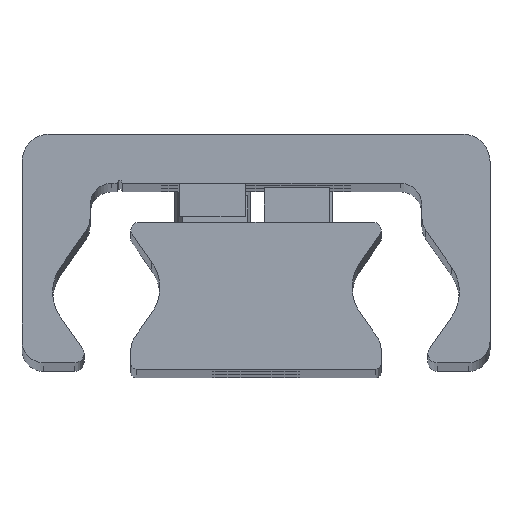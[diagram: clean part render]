
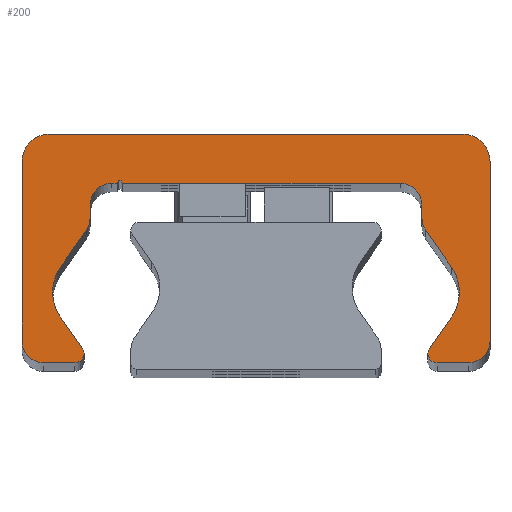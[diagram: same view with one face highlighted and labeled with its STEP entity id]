
A CAD part, top view. The second image highlights one B-rep face of the part: STEP entity #200.
In plain terms, the highlighted planar face has unit normal (0, 0, 1).
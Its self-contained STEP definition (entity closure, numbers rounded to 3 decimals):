
#200=ADVANCED_FACE('',(#502),#503,.T.);
#502=FACE_OUTER_BOUND('',#805,.T.);
#503=PLANE('',#806);
#805=EDGE_LOOP('',(#1850,#1851,#1852,#1853,#1854,#1855,#1856,#1857,#1858,#1859,#1860,#1861,#1862,#1863,#1864,#1865,#1866,#1867,#1868,#1869,#1870,#1871,#1872,#1873,#1874,#1875,#1876,#1877,#1878,#1879));
#806=AXIS2_PLACEMENT_3D('',#1880,#1881,#1882);
#1850=ORIENTED_EDGE('',*,*,#2099,.F.);
#1851=ORIENTED_EDGE('',*,*,#2262,.F.);
#1852=ORIENTED_EDGE('',*,*,#2085,.F.);
#1853=ORIENTED_EDGE('',*,*,#2261,.F.);
#1854=ORIENTED_EDGE('',*,*,#2257,.F.);
#1855=ORIENTED_EDGE('',*,*,#2254,.F.);
#1856=ORIENTED_EDGE('',*,*,#2251,.F.);
#1857=ORIENTED_EDGE('',*,*,#2248,.F.);
#1858=ORIENTED_EDGE('',*,*,#2245,.F.);
#1859=ORIENTED_EDGE('',*,*,#2242,.F.);
#1860=ORIENTED_EDGE('',*,*,#2239,.F.);
#1861=ORIENTED_EDGE('',*,*,#2236,.F.);
#1862=ORIENTED_EDGE('',*,*,#2233,.F.);
#1863=ORIENTED_EDGE('',*,*,#2230,.F.);
#1864=ORIENTED_EDGE('',*,*,#2091,.F.);
#1865=ORIENTED_EDGE('',*,*,#2228,.F.);
#1866=ORIENTED_EDGE('',*,*,#2093,.F.);
#1867=ORIENTED_EDGE('',*,*,#2227,.F.);
#1868=ORIENTED_EDGE('',*,*,#2223,.F.);
#1869=ORIENTED_EDGE('',*,*,#2220,.F.);
#1870=ORIENTED_EDGE('',*,*,#2217,.F.);
#1871=ORIENTED_EDGE('',*,*,#2214,.F.);
#1872=ORIENTED_EDGE('',*,*,#2211,.F.);
#1873=ORIENTED_EDGE('',*,*,#2208,.F.);
#1874=ORIENTED_EDGE('',*,*,#2205,.F.);
#1875=ORIENTED_EDGE('',*,*,#2202,.F.);
#1876=ORIENTED_EDGE('',*,*,#2199,.F.);
#1877=ORIENTED_EDGE('',*,*,#2196,.F.);
#1878=ORIENTED_EDGE('',*,*,#2193,.F.);
#1879=ORIENTED_EDGE('',*,*,#2190,.F.);
#1880=CARTESIAN_POINT('',(-0.023,14.187,207.0));
#1881=DIRECTION('',(0.0,0.0,1.0));
#1882=DIRECTION('',(1.0,0.0,0.0));
#2085=EDGE_CURVE('',#2536,#2539,#2540,.T.);
#2091=EDGE_CURVE('',#2549,#2545,#2551,.T.);
#2093=EDGE_CURVE('',#2552,#2555,#2556,.T.);
#2099=EDGE_CURVE('',#2565,#2561,#2567,.T.);
#2190=EDGE_CURVE('',#2561,#2714,#2715,.T.);
#2193=EDGE_CURVE('',#2714,#2719,#2720,.T.);
#2196=EDGE_CURVE('',#2719,#2724,#2725,.T.);
#2199=EDGE_CURVE('',#2724,#2729,#2730,.T.);
#2202=EDGE_CURVE('',#2729,#2734,#2735,.T.);
#2205=EDGE_CURVE('',#2734,#2739,#2740,.T.);
#2208=EDGE_CURVE('',#2739,#2744,#2745,.T.);
#2211=EDGE_CURVE('',#2744,#2749,#2750,.T.);
#2214=EDGE_CURVE('',#2749,#2754,#2755,.T.);
#2217=EDGE_CURVE('',#2754,#2759,#2760,.T.);
#2220=EDGE_CURVE('',#2759,#2764,#2765,.T.);
#2223=EDGE_CURVE('',#2764,#2769,#2770,.T.);
#2227=EDGE_CURVE('',#2769,#2552,#2775,.T.);
#2228=EDGE_CURVE('',#2555,#2549,#2776,.T.);
#2230=EDGE_CURVE('',#2545,#2778,#2779,.T.);
#2233=EDGE_CURVE('',#2778,#2783,#2784,.T.);
#2236=EDGE_CURVE('',#2783,#2788,#2789,.T.);
#2239=EDGE_CURVE('',#2788,#2793,#2794,.T.);
#2242=EDGE_CURVE('',#2793,#2798,#2799,.T.);
#2245=EDGE_CURVE('',#2798,#2803,#2804,.T.);
#2248=EDGE_CURVE('',#2803,#2808,#2809,.T.);
#2251=EDGE_CURVE('',#2808,#2813,#2814,.T.);
#2254=EDGE_CURVE('',#2813,#2818,#2819,.T.);
#2257=EDGE_CURVE('',#2818,#2823,#2824,.T.);
#2261=EDGE_CURVE('',#2823,#2536,#2829,.T.);
#2262=EDGE_CURVE('',#2539,#2565,#2830,.T.);
#2536=VERTEX_POINT('',#3200);
#2539=VERTEX_POINT('',#3204);
#2540=CIRCLE('',#3205,0.85);
#2545=VERTEX_POINT('',#3211);
#2549=VERTEX_POINT('',#3216);
#2551=CIRCLE('',#3219,0.85);
#2552=VERTEX_POINT('',#3220);
#2555=VERTEX_POINT('',#3224);
#2556=CIRCLE('',#3225,4.);
#2561=VERTEX_POINT('',#3231);
#2565=VERTEX_POINT('',#3236);
#2567=CIRCLE('',#3239,4.);
#2714=VERTEX_POINT('',#3436);
#2715=CIRCLE('',#3437,4.);
#2719=VERTEX_POINT('',#3442);
#2720=LINE('',#3443,#3444);
#2724=VERTEX_POINT('',#3450);
#2725=CIRCLE('',#3451,2.);
#2729=VERTEX_POINT('',#3456);
#2730=LINE('',#3457,#3458);
#2734=VERTEX_POINT('',#3464);
#2735=CIRCLE('',#3465,2.0);
#2739=VERTEX_POINT('',#3470);
#2740=LINE('',#3471,#3472);
#2744=VERTEX_POINT('',#3478);
#2745=CIRCLE('',#3479,0.25);
#2749=VERTEX_POINT('',#3484);
#2750=LINE('',#3485,#3486);
#2754=VERTEX_POINT('',#3492);
#2755=CIRCLE('',#3493,2.0);
#2759=VERTEX_POINT('',#3498);
#2760=LINE('',#3499,#3500);
#2764=VERTEX_POINT('',#3506);
#2765=CIRCLE('',#3507,2.0);
#2769=VERTEX_POINT('',#3512);
#2770=LINE('',#3513,#3514);
#2775=CIRCLE('',#3521,4.);
#2776=LINE('',#3522,#3523);
#2778=VERTEX_POINT('',#3526);
#2779=CIRCLE('',#3527,0.85);
#2783=VERTEX_POINT('',#3532);
#2784=LINE('',#3533,#3534);
#2788=VERTEX_POINT('',#3540);
#2789=CIRCLE('',#3541,2.);
#2793=VERTEX_POINT('',#3546);
#2794=LINE('',#3547,#3548);
#2798=VERTEX_POINT('',#3554);
#2799=CIRCLE('',#3555,2.5);
#2803=VERTEX_POINT('',#3560);
#2804=LINE('',#3561,#3562);
#2808=VERTEX_POINT('',#3568);
#2809=CIRCLE('',#3569,2.5);
#2813=VERTEX_POINT('',#3574);
#2814=LINE('',#3575,#3576);
#2818=VERTEX_POINT('',#3582);
#2819=CIRCLE('',#3583,2.);
#2823=VERTEX_POINT('',#3588);
#2824=LINE('',#3589,#3590);
#2829=CIRCLE('',#3597,0.85);
#2830=LINE('',#3598,#3599);
#3200=CARTESIAN_POINT('',(15.8,1.859,207.0));
#3204=CARTESIAN_POINT('',(15.922,2.298,207.0));
#3205=AXIS2_PLACEMENT_3D('',#3915,#3916,#3917);
#3211=CARTESIAN_POINT('',(-15.8,1.859,207.0));
#3216=CARTESIAN_POINT('',(-15.922,2.298,207.0));
#3219=AXIS2_PLACEMENT_3D('',#3927,#3928,#3929);
#3220=CARTESIAN_POINT('',(-18.688,7.509,207.0));
#3224=CARTESIAN_POINT('',(-17.964,5.214,207.0));
#3225=AXIS2_PLACEMENT_3D('',#3931,#3932,#3933);
#3231=CARTESIAN_POINT('',(18.688,7.509,207.0));
#3236=CARTESIAN_POINT('',(17.964,5.214,207.0));
#3239=AXIS2_PLACEMENT_3D('',#3943,#3944,#3945);
#3436=CARTESIAN_POINT('',(17.964,9.803,207.0));
#3437=AXIS2_PLACEMENT_3D('',#4116,#4117,#4118);
#3442=CARTESIAN_POINT('',(15.612,13.163,207.0));
#3443=CARTESIAN_POINT('',(15.612,13.163,207.0));
#3444=VECTOR('',#4123,1.0);
#3450=CARTESIAN_POINT('',(15.25,14.31,207.0));
#3451=AXIS2_PLACEMENT_3D('',#4126,#4127,#4128);
#3456=CARTESIAN_POINT('',(15.25,15.509,207.0));
#3457=CARTESIAN_POINT('',(15.25,15.509,207.0));
#3458=VECTOR('',#4133,1.0);
#3464=CARTESIAN_POINT('',(13.25,17.509,207.0));
#3465=AXIS2_PLACEMENT_3D('',#4136,#4137,#4138);
#3470=CARTESIAN_POINT('',(-12.25,17.509,207.0));
#3471=CARTESIAN_POINT('',(-12.25,17.509,207.0));
#3472=VECTOR('',#4143,1.0);
#3478=CARTESIAN_POINT('',(-12.75,17.509,207.0));
#3479=AXIS2_PLACEMENT_3D('',#4146,#4147,#4148);
#3484=CARTESIAN_POINT('',(-13.25,17.509,207.0));
#3485=CARTESIAN_POINT('',(-13.25,17.509,207.0));
#3486=VECTOR('',#4153,1.0);
#3492=CARTESIAN_POINT('',(-15.25,15.509,207.0));
#3493=AXIS2_PLACEMENT_3D('',#4156,#4157,#4158);
#3498=CARTESIAN_POINT('',(-15.25,14.31,207.0));
#3499=CARTESIAN_POINT('',(-15.25,14.31,207.0));
#3500=VECTOR('',#4163,1.0);
#3506=CARTESIAN_POINT('',(-15.612,13.163,207.0));
#3507=AXIS2_PLACEMENT_3D('',#4166,#4167,#4168);
#3512=CARTESIAN_POINT('',(-17.964,9.803,207.0));
#3513=CARTESIAN_POINT('',(-17.964,9.803,207.0));
#3514=VECTOR('',#4173,1.);
#3521=AXIS2_PLACEMENT_3D('',#4179,#4180,#4181);
#3522=CARTESIAN_POINT('',(-15.922,2.298,207.0));
#3523=VECTOR('',#4182,1.0);
#3526=CARTESIAN_POINT('',(-16.65,1.009,207.0));
#3527=AXIS2_PLACEMENT_3D('',#4184,#4185,#4186);
#3532=CARTESIAN_POINT('',(-19.5,1.009,207.0));
#3533=CARTESIAN_POINT('',(-19.5,1.009,207.0));
#3534=VECTOR('',#4191,1.0);
#3540=CARTESIAN_POINT('',(-21.5,3.009,207.0));
#3541=AXIS2_PLACEMENT_3D('',#4194,#4195,#4196);
#3546=CARTESIAN_POINT('',(-21.5,19.509,207.0));
#3547=CARTESIAN_POINT('',(-21.5,19.509,207.0));
#3548=VECTOR('',#4201,1.0);
#3554=CARTESIAN_POINT('',(-19.0,22.009,207.0));
#3555=AXIS2_PLACEMENT_3D('',#4204,#4205,#4206);
#3560=CARTESIAN_POINT('',(19.0,22.009,207.0));
#3561=CARTESIAN_POINT('',(19.0,22.009,207.0));
#3562=VECTOR('',#4211,1.0);
#3568=CARTESIAN_POINT('',(21.5,19.509,207.0));
#3569=AXIS2_PLACEMENT_3D('',#4214,#4215,#4216);
#3574=CARTESIAN_POINT('',(21.5,3.009,207.0));
#3575=CARTESIAN_POINT('',(21.5,3.009,207.0));
#3576=VECTOR('',#4221,1.0);
#3582=CARTESIAN_POINT('',(19.5,1.009,207.0));
#3583=AXIS2_PLACEMENT_3D('',#4224,#4225,#4226);
#3588=CARTESIAN_POINT('',(16.65,1.009,207.0));
#3589=CARTESIAN_POINT('',(16.65,1.009,207.0));
#3590=VECTOR('',#4231,1.0);
#3597=AXIS2_PLACEMENT_3D('',#4237,#4238,#4239);
#3598=CARTESIAN_POINT('',(17.964,5.214,207.0));
#3599=VECTOR('',#4240,1.0);
#3915=CARTESIAN_POINT('',(16.65,1.859,207.0));
#3916=DIRECTION('',(0.0,0.0,-1.0));
#3917=DIRECTION('',(1.0,0.0,0.0));
#3927=CARTESIAN_POINT('',(-16.65,1.859,207.0));
#3928=DIRECTION('',(0.0,0.0,-1.0));
#3929=DIRECTION('',(1.0,0.0,0.0));
#3931=CARTESIAN_POINT('',(-14.688,7.509,207.0));
#3932=DIRECTION('',(0.0,0.0,1.0));
#3933=DIRECTION('',(1.0,0.0,0.0));
#3943=CARTESIAN_POINT('',(14.688,7.509,207.0));
#3944=DIRECTION('',(0.0,0.0,1.0));
#3945=DIRECTION('',(1.0,0.0,0.0));
#4116=CARTESIAN_POINT('',(14.688,7.509,207.0));
#4117=DIRECTION('',(0.0,0.0,1.0));
#4118=DIRECTION('',(1.0,0.0,0.0));
#4123=DIRECTION('',(-0.574,0.819,0.0));
#4126=CARTESIAN_POINT('',(17.25,14.31,207.0));
#4127=DIRECTION('',(0.0,0.0,-1.0));
#4128=DIRECTION('',(1.0,0.0,0.0));
#4133=DIRECTION('',(0.0,1.0,0.0));
#4136=CARTESIAN_POINT('',(13.25,15.509,207.0));
#4137=DIRECTION('',(0.0,0.0,1.0));
#4138=DIRECTION('',(1.0,0.0,0.0));
#4143=DIRECTION('',(-1.0,-0.0,-0.0));
#4146=CARTESIAN_POINT('',(-12.5,17.509,207.0));
#4147=DIRECTION('',(0.0,0.0,1.0));
#4148=DIRECTION('',(1.0,0.0,0.0));
#4153=DIRECTION('',(-1.0,-0.0,-0.0));
#4156=CARTESIAN_POINT('',(-13.25,15.509,207.0));
#4157=DIRECTION('',(0.0,0.0,1.0));
#4158=DIRECTION('',(1.0,0.0,0.0));
#4163=DIRECTION('',(-0.0,-1.0,-0.0));
#4166=CARTESIAN_POINT('',(-17.25,14.31,207.0));
#4167=DIRECTION('',(0.0,0.0,-1.0));
#4168=DIRECTION('',(1.0,0.0,0.0));
#4173=DIRECTION('',(-0.574,-0.819,-0.0));
#4179=CARTESIAN_POINT('',(-14.688,7.509,207.0));
#4180=DIRECTION('',(0.0,0.0,1.0));
#4181=DIRECTION('',(1.0,0.0,0.0));
#4182=DIRECTION('',(0.574,-0.819,0.0));
#4184=CARTESIAN_POINT('',(-16.65,1.859,207.0));
#4185=DIRECTION('',(0.0,0.0,-1.0));
#4186=DIRECTION('',(1.0,0.0,0.0));
#4191=DIRECTION('',(-1.0,-0.0,-0.0));
#4194=CARTESIAN_POINT('',(-19.5,3.009,207.0));
#4195=DIRECTION('',(0.0,0.0,-1.0));
#4196=DIRECTION('',(1.0,0.0,0.0));
#4201=DIRECTION('',(0.0,1.0,0.0));
#4204=CARTESIAN_POINT('',(-19.0,19.509,207.0));
#4205=DIRECTION('',(0.0,0.0,-1.0));
#4206=DIRECTION('',(1.0,0.0,0.0));
#4211=DIRECTION('',(1.0,0.0,0.0));
#4214=CARTESIAN_POINT('',(19.0,19.509,207.0));
#4215=DIRECTION('',(0.0,0.0,-1.0));
#4216=DIRECTION('',(1.0,0.0,0.0));
#4221=DIRECTION('',(-0.0,-1.0,-0.0));
#4224=CARTESIAN_POINT('',(19.5,3.009,207.0));
#4225=DIRECTION('',(0.0,0.0,-1.0));
#4226=DIRECTION('',(1.0,0.0,0.0));
#4231=DIRECTION('',(-1.0,-0.0,-0.0));
#4237=CARTESIAN_POINT('',(16.65,1.859,207.0));
#4238=DIRECTION('',(0.0,0.0,-1.0));
#4239=DIRECTION('',(1.0,0.0,0.0));
#4240=DIRECTION('',(0.574,0.819,0.0));
